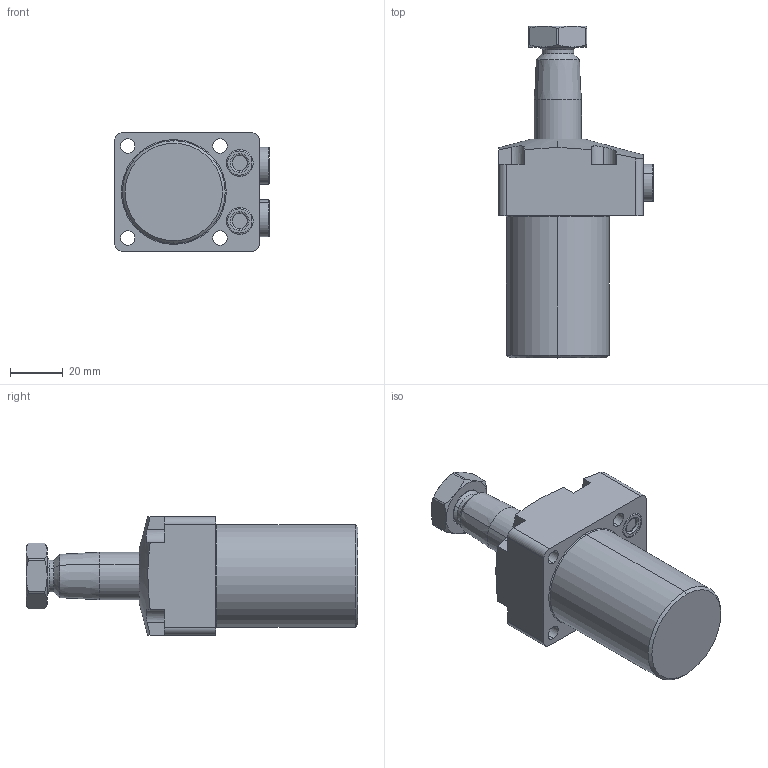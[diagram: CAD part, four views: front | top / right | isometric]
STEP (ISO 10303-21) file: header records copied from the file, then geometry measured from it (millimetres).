
FILE_DESCRIPTION(/* description */ (''),/* implementation_level */ '2;1');
FILE_NAME(/* name */ 'TRC02-RN30.stp',/* time_stamp */ '2025-01-04T09:26:25+08:00',/* author */ (''),/* organization */ (''),/* preprocessor_version */ 'ST-DEVELOPER v16.7',/* originating_system */ 'SIEMENS PLM Software NX 12.0',/* authorisation */ '');
FILE_SCHEMA (('AUTOMOTIVE_DESIGN { 1 0 10303 214 3 1 1 1 }'));
Length unit declared in the file: millimetre
Products named in the file (5): TRC02-RN30-03; TRC02-RN30-04; TRC02-RN30-02; TRC02-RN30-01; TRC02-RN30_stp
Assembly tree (5 placements, depth 2):
  TRC02-RN30_stp
    TRC02-RN30-01
    TRC02-RN30-02
    TRC02-RN30-04
    TRC02-RN30-03  x2
Bounding box: 58.8 x 126 x 45 mm (x, y, z)
Volume: 133880.8 mm3; surface area: 25365.3 mm2
Topology: 5 solids, 7 shells, 203 faces, 457 edges, 280 vertices
Faces by surface type: cylinder 73, plane 67, cone 40, torus 22, sphere 1
Entity records: 5354 total; most frequent: CARTESIAN_POINT 1094, DIRECTION 922, ORIENTED_EDGE 820, EDGE_CURVE 410, AXIS2_PLACEMENT_3D 378, VERTEX_POINT 252, EDGE_LOOP 206, CIRCLE 191
